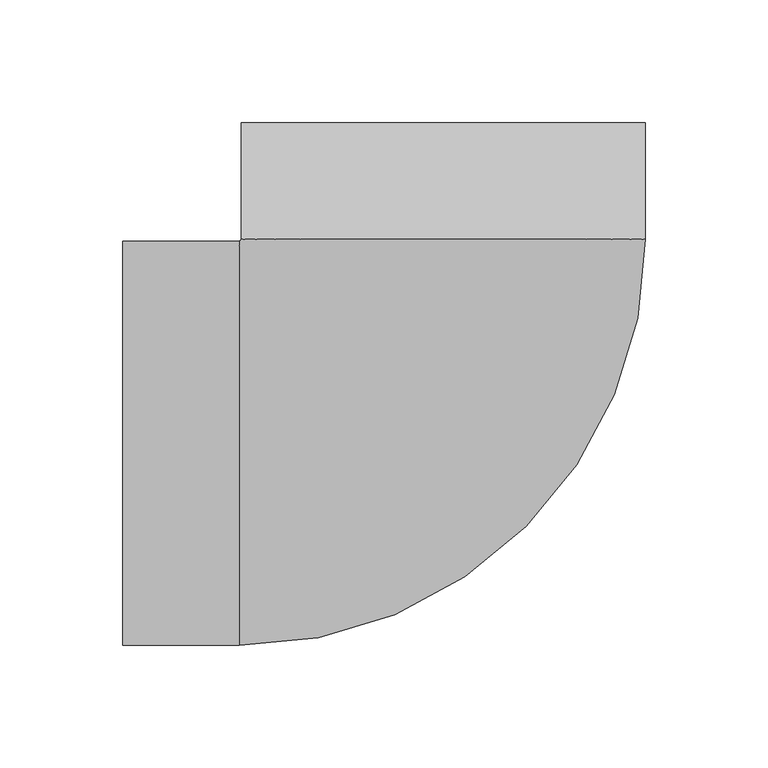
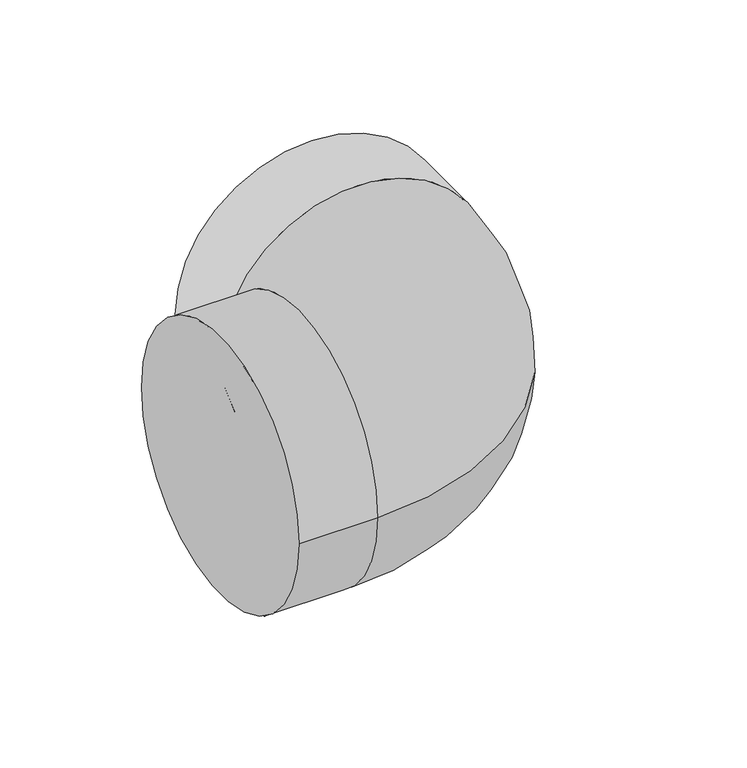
"""IFC4 building model written with IfcOpenShell, lengths in millimetres: pipe fitting geometry, NIRON RED termofusion codo : Estándar."""

from ifc_helpers import new_model, si_unit, point, frame, origin, place, context, project, spatial, circle_curve, ellipse_curve, trimmed, source, transform, mapped, element, save
from ifc_brep_helpers import plane_surface, cylinder_surface, revolved_surface, advanced_brep


def pipe_fitting_506dd28a(model_context):
    return source(origin(), model_context, "Body", "AdvancedBrep", [
        advanced_brep(
        [(-130.89375, -82.5, 0.0), (-130.89375, 82.5, 0.0), (-83.29375, -82.5, 0.0), (-83.29375, 82.5, 0.0), (-82.5, 83.29375, 0.0), (82.5, 83.29375, 0.0), (0.0, 83.29375, 82.5), (0.0, 83.29375, -82.5), (82.5, 130.89375, 0.0), (-82.5, 130.89375, 0.0)],
        [
            (0, 1, circle_curve(frame((-130.89375, 0.0, 0.0), z_axis=(-1.0, 0.0, 0.0), x_axis=(0.0, 1.0, 0.0)), 82.5)),
            (1, 0, circle_curve(frame((-130.89375, 0.0, 0.0), z_axis=(-1.0, 0.0, 0.0), x_axis=(0.0, 1.0, 0.0)), 82.5)),
            (0, 2),
            (2, 3, circle_curve(frame((-83.29375, 0.0, 0.0), z_axis=(-1.0, 0.0, 0.0), x_axis=(0.0, 1.0, 0.0)), 82.5)),
            (3, 1),
            (3, 2, circle_curve(frame((-83.29375, 0.0, 0.0), z_axis=(-1.0, 0.0, 0.0), x_axis=(0.0, 1.0, 0.0)), 82.5)),
            (4, 3, circle_curve(frame((-83.29375, 83.29375, 0.0), z_axis=(0.0, 0.0, -1.0), x_axis=(0.0, -1.0, 0.0)), 0.79375)),
            (2, 5, circle_curve(frame((-83.29375, 83.29375, 0.0), z_axis=(0.0, 0.0, 1.0), x_axis=(0.0, -1.0, 0.0)), 165.79375)),
            (5, 6, circle_curve(frame((0.0, 83.29375, 0.0), z_axis=(0.0, -1.0, 0.0), x_axis=(-1.0, 0.0, 0.0)), 82.5)),
            (6, 4, circle_curve(frame((0.0, 83.29375, 0.0), z_axis=(0.0, -1.0, 0.0), x_axis=(-1.0, 0.0, 0.0)), 82.5)),
            (4, 7, circle_curve(frame((0.0, 83.29375, 0.0), z_axis=(0.0, -1.0, 0.0), x_axis=(-1.0, 0.0, 0.0)), 82.5)),
            (7, 5, circle_curve(frame((0.0, 83.29375, 0.0), z_axis=(0.0, -1.0, 0.0), x_axis=(-1.0, 0.0, 0.0)), 82.5)),
            (8, 9, circle_curve(frame((0.0, 130.89375, 0.0), z_axis=(0.0, 1.0, 0.0), x_axis=(-1.0, 0.0, 0.0)), 82.5)),
            (9, 8, circle_curve(frame((0.0, 130.89375, 0.0), z_axis=(0.0, 1.0, 0.0), x_axis=(-1.0, 0.0, 0.0)), 82.5)),
            (9, 4),
            (5, 8),
        ],
        [
            plane_surface(frame((-130.89375, 0.0, 0.0), z_axis=(-1.0, 0.0, 0.0), x_axis=(0.0, 0.0, 1.0))),
            cylinder_surface(frame((-130.89375, 0.0, 0.0), z_axis=(-1.0, 0.0, 0.0), x_axis=(0.0, 1.0, 0.0)), 82.5),
            revolved_surface(trimmed(ellipse_curve(frame((-83.29375, 0.0, 0.0), z_axis=(-1.0, 0.0, 0.0), x_axis=(0.0, 1.0, 0.0)), 82.5, 82.5), [point((-83.29375, -82.5, 0.0))], [point((-83.29375, 82.5, 0.0))], True, "CARTESIAN"), (-83.29375, 83.29375, 0.0), (0.0, 0.0, 1.0)),
            revolved_surface(trimmed(ellipse_curve(frame((-83.29375, 0.0, 0.0), z_axis=(-1.0, 0.0, 0.0), x_axis=(0.0, 1.0, 0.0)), 82.5, 82.5), [point((-83.29375, 82.5, 0.0))], [point((-83.29375, -82.5, 0.0))], True, "CARTESIAN"), (-83.29375, 83.29375, 0.0), (0.0, 0.0, 1.0)),
            plane_surface(frame((0.0, 130.89375, 0.0), z_axis=(0.0, 1.0, 0.0), x_axis=(0.0, 0.0, 1.0))),
            cylinder_surface(frame((0.0, 83.29375, 0.0), z_axis=(0.0, -1.0, 0.0), x_axis=(-1.0, 0.0, 0.0)), 82.5),
        ],
        [
            (0, [[1, 2]]),
            (1, [[-1, 3, 4, 5]]),
            (1, [[-2, -5, 6, -3]]),
            (2, [[7, -4, 8, 9, 10]]),
            (3, [[-7, 11, 12, -8, -6]]),
            (4, [[13, 14]]),
            (5, [[-14, 15, -10, -9, 16]]),
            (5, [[-13, -16, -12, -11, -15]]),
        ],
    ),
    ])


if __name__ == "__main__":
    model = new_model("IFC4")
    model_context = context("Model", 3, world=origin())
    ifc_project = project(units=[si_unit("LENGTHUNIT", "METRE", prefix="MILLI")], contexts=[model_context])
    site = spatial("IfcSite", under=ifc_project)
    building = spatial("IfcBuilding", under=site)
    placement = place(None, origin())
    pipe_fitting_shape = pipe_fitting_506dd28a(model_context)
    element("IfcPipeFitting", 1, ObjectType="NIRON RED termofusion codo : Estándar", at=placement, inside=building, context=model_context, shape_type="MappedRepresentation", body=[
        mapped(pipe_fitting_shape, transform((0.0, 0.0, 0.0), x_axis=(1.0, 0.0, 0.0), y_axis=(0.0, 1.0, 0.0), z_axis=(0.0, 0.0, 1.0))),
    ])
    save(model, "model.ifc")
